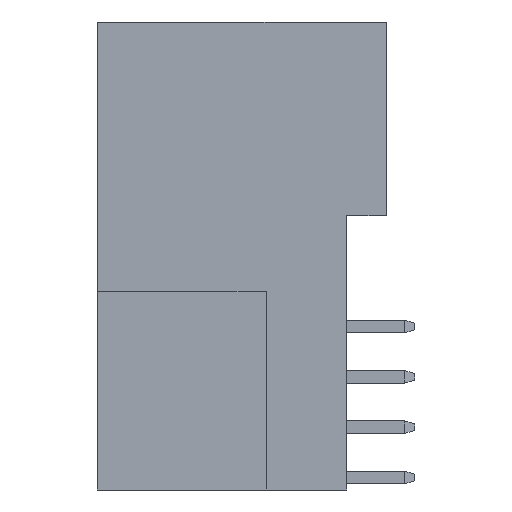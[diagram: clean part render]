
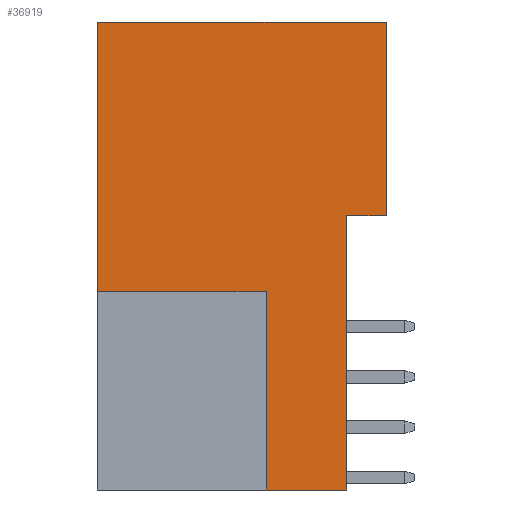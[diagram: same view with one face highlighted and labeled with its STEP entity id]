
A CAD part, left-side view. The second image highlights one B-rep face of the part: STEP entity #36919.
In plain terms, the highlighted planar face has unit normal (-1, 0, 0).
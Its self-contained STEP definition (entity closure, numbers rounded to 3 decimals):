
#287 = AXIS2_PLACEMENT_3D ( 'NONE', #34810, #34811, #34812 ) ;
#4567 = EDGE_CURVE ( 'NONE', #25299, #24690, #21020, .T. ) ;
#4568 = EDGE_CURVE ( 'NONE', #25368, #24690, #21023, .T. ) ;
#4569 = EDGE_CURVE ( 'NONE', #25299, #25077, #21006, .T. ) ;
#4577 = EDGE_CURVE ( 'NONE', #24894, #25011, #21049, .T. ) ;
#4600 = EDGE_CURVE ( 'NONE', #25011, #25694, #21119, .T. ) ;
#4602 = EDGE_CURVE ( 'NONE', #25694, #25235, #21096, .T. ) ;
#4606 = EDGE_CURVE ( 'NONE', #25235, #25368, #21108, .T. ) ;
#4627 = EDGE_CURVE ( 'NONE', #25077, #24894, #21200, .T. ) ;
#8608 = EDGE_LOOP ( 'NONE', ( #29808, #30904, #29775, #30540, #30394, #30881, #29852, #31002 ) ) ;
#11340 = CARTESIAN_POINT ( 'NONE',  ( -57.997, 1.844, -23.619 ) ) ;
#11453 = CARTESIAN_POINT ( 'NONE',  ( -57.997, -2.216, -23.619 ) ) ;
#11515 = CARTESIAN_POINT ( 'NONE',  ( -57.997, 1.844, -13.619 ) ) ;
#11648 = CARTESIAN_POINT ( 'NONE',  ( -57.997, -4.226, -9.779 ) ) ;
#11712 = CARTESIAN_POINT ( 'NONE',  ( -57.997, 10.354, -13.619 ) ) ;
#11805 = CARTESIAN_POINT ( 'NONE',  ( -57.997, -4.226, 0.001 ) ) ;
#12129 = CARTESIAN_POINT ( 'NONE',  ( -57.997, -2.216, -9.779 ) ) ;
#21006 = LINE ( 'NONE', #21027, #23791 ) ;
#21020 = LINE ( 'NONE', #21021, #23543 ) ;
#21021 = CARTESIAN_POINT ( 'NONE',  ( -57.997, 10.354, -23.619 ) ) ;
#21022 = DIRECTION ( 'NONE',  ( 0., 0., 1. ) ) ;
#21023 = LINE ( 'NONE', #21025, #22883 ) ;
#21025 = CARTESIAN_POINT ( 'NONE',  ( -57.997, 10.354, 0.001 ) ) ;
#21026 = DIRECTION ( 'NONE',  ( 0., 1., 0. ) ) ;
#21027 = CARTESIAN_POINT ( 'NONE',  ( -57.997, 10.354, -13.619 ) ) ;
#21028 = DIRECTION ( 'NONE',  ( 0., -1., 0. ) ) ;
#21049 = LINE ( 'NONE', #21050, #22668 ) ;
#21050 = CARTESIAN_POINT ( 'NONE',  ( -57.997, 10.354, -23.619 ) ) ;
#21051 = DIRECTION ( 'NONE',  ( 0., -1., 0. ) ) ;
#21096 = LINE ( 'NONE', #21125, #23277 ) ;
#21108 = LINE ( 'NONE', #21137, #24188 ) ;
#21119 = LINE ( 'NONE', #21120, #23000 ) ;
#21120 = CARTESIAN_POINT ( 'NONE',  ( -57.997, -2.216, -23.619 ) ) ;
#21121 = DIRECTION ( 'NONE',  ( 0., 0., 1. ) ) ;
#21125 = CARTESIAN_POINT ( 'NONE',  ( -57.997, 10.354, -9.779 ) ) ;
#21126 = DIRECTION ( 'NONE',  ( 0., -1., 0. ) ) ;
#21137 = CARTESIAN_POINT ( 'NONE',  ( -57.997, -4.226, -23.619 ) ) ;
#21138 = DIRECTION ( 'NONE',  ( 0., 0., 1. ) ) ;
#21200 = LINE ( 'NONE', #21201, #23288 ) ;
#21201 = CARTESIAN_POINT ( 'NONE',  ( -57.997, 1.844, -23.619 ) ) ;
#21202 = DIRECTION ( 'NONE',  ( 0., 0., -1. ) ) ;
#22668 = VECTOR ( 'NONE', #21051, 1000. ) ;
#22883 = VECTOR ( 'NONE', #21026, 1000. ) ;
#23000 = VECTOR ( 'NONE', #21121, 1000. ) ;
#23277 = VECTOR ( 'NONE', #21126, 1000. ) ;
#23288 = VECTOR ( 'NONE', #21202, 1000. ) ;
#23543 = VECTOR ( 'NONE', #21022, 1000. ) ;
#23791 = VECTOR ( 'NONE', #21028, 1000. ) ;
#24188 = VECTOR ( 'NONE', #21138, 1000. ) ;
#24690 = VERTEX_POINT ( 'NONE', #43814 ) ;
#24894 = VERTEX_POINT ( 'NONE', #11340 ) ;
#25011 = VERTEX_POINT ( 'NONE', #11453 ) ;
#25077 = VERTEX_POINT ( 'NONE', #11515 ) ;
#25235 = VERTEX_POINT ( 'NONE', #11648 ) ;
#25299 = VERTEX_POINT ( 'NONE', #11712 ) ;
#25368 = VERTEX_POINT ( 'NONE', #11805 ) ;
#25694 = VERTEX_POINT ( 'NONE', #12129 ) ;
#29775 = ORIENTED_EDGE ( 'NONE', *, *, #4606, .T. ) ;
#29808 = ORIENTED_EDGE ( 'NONE', *, *, #4600, .T. ) ;
#29852 = ORIENTED_EDGE ( 'NONE', *, *, #4627, .T. ) ;
#30394 = ORIENTED_EDGE ( 'NONE', *, *, #4567, .F. ) ;
#30540 = ORIENTED_EDGE ( 'NONE', *, *, #4568, .T. ) ;
#30881 = ORIENTED_EDGE ( 'NONE', *, *, #4569, .T. ) ;
#30904 = ORIENTED_EDGE ( 'NONE', *, *, #4602, .T. ) ;
#31002 = ORIENTED_EDGE ( 'NONE', *, *, #4577, .T. ) ;
#34785 = PLANE ( 'NONE',  #287 ) ;
#34800 = FACE_OUTER_BOUND ( 'NONE', #8608, .T. ) ;
#34810 = CARTESIAN_POINT ( 'NONE',  ( -57.997, 10.354, -23.619 ) ) ;
#34811 = DIRECTION ( 'NONE',  ( -1., 0., 0. ) ) ;
#34812 = DIRECTION ( 'NONE',  ( 0., -1., 0. ) ) ;
#36919 = ADVANCED_FACE ( 'NONE', ( #34800 ), #34785, .T. ) ;
#43814 = CARTESIAN_POINT ( 'NONE',  ( -57.997, 10.354, 0.001 ) ) ;
